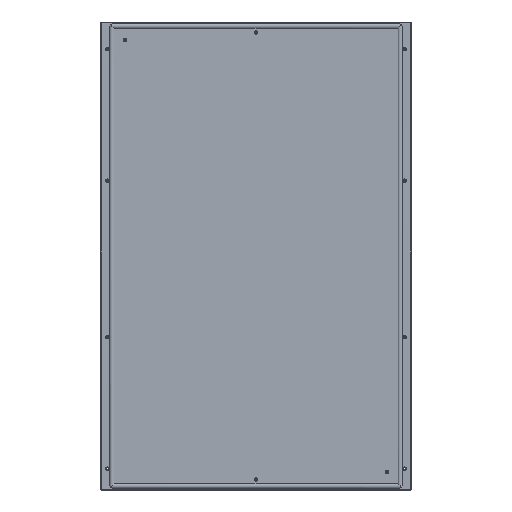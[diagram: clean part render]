
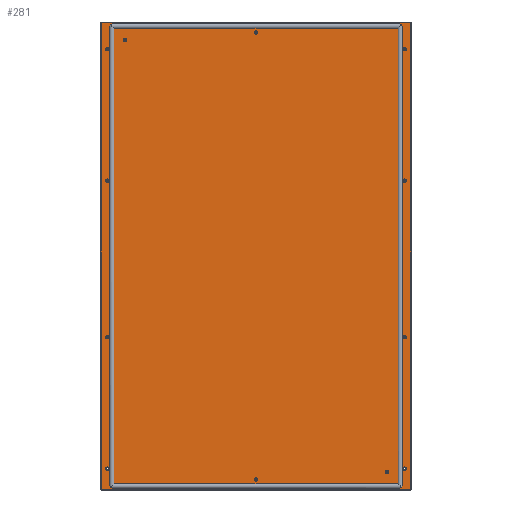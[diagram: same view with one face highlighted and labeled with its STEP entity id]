
A CAD part, top view. The second image highlights one B-rep face of the part: STEP entity #281.
In plain terms, the highlighted planar face has unit normal (0, 0, 1).
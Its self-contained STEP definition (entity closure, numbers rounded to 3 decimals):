
#281=ADVANCED_FACE('',(#1460,#1462,#1464,#1466,#1468,#1470,#1472,#1474,#1476,#1478,
#1480,#1482,#1484),#1486,.T.);
#1460=FACE_BOUND('',#1461,.T.);
#1461=EDGE_LOOP('',(#2761,#2762,#2763,#2764));
#1462=FACE_BOUND('',#1463,.T.);
#1463=EDGE_LOOP('',(#2765));
#1464=FACE_BOUND('',#1465,.T.);
#1465=EDGE_LOOP('',(#2766));
#1466=FACE_BOUND('',#1467,.T.);
#1467=EDGE_LOOP('',(#2767));
#1468=FACE_BOUND('',#1469,.T.);
#1469=EDGE_LOOP('',(#2768));
#1470=FACE_BOUND('',#1471,.T.);
#1471=EDGE_LOOP('',(#2769));
#1472=FACE_BOUND('',#1473,.T.);
#1473=EDGE_LOOP('',(#2770));
#1474=FACE_BOUND('',#1475,.T.);
#1475=EDGE_LOOP('',(#2771));
#1476=FACE_BOUND('',#1477,.T.);
#1477=EDGE_LOOP('',(#2772));
#1478=FACE_BOUND('',#1479,.T.);
#1479=EDGE_LOOP('',(#2773));
#1480=FACE_BOUND('',#1481,.T.);
#1481=EDGE_LOOP('',(#2774));
#1482=FACE_BOUND('',#1483,.T.);
#1483=EDGE_LOOP('',(#2775));
#1484=FACE_BOUND('',#1485,.T.);
#1485=EDGE_LOOP('',(#2776));
#1486=PLANE('',#1487);
#1487=AXIS2_PLACEMENT_3D('',#1488,#1489,#1490);
#1488=CARTESIAN_POINT('',(0.,0.,1.4));
#1489=DIRECTION('',(0.,0.,1.));
#1490=DIRECTION('',(1.,0.,0.));
#2761=ORIENTED_EDGE('',*,*,#3305,.F.);
#2762=ORIENTED_EDGE('',*,*,#3306,.F.);
#2763=ORIENTED_EDGE('',*,*,#3307,.F.);
#2764=ORIENTED_EDGE('',*,*,#3308,.F.);
#2765=ORIENTED_EDGE('',*,*,#3265,.F.);
#2766=ORIENTED_EDGE('',*,*,#3277,.F.);
#2767=ORIENTED_EDGE('',*,*,#3281,.F.);
#2768=ORIENTED_EDGE('',*,*,#3269,.F.);
#2769=ORIENTED_EDGE('',*,*,#3271,.F.);
#2770=ORIENTED_EDGE('',*,*,#3267,.F.);
#2771=ORIENTED_EDGE('',*,*,#3279,.F.);
#2772=ORIENTED_EDGE('',*,*,#3261,.F.);
#2773=ORIENTED_EDGE('',*,*,#3263,.F.);
#2774=ORIENTED_EDGE('',*,*,#3273,.F.);
#2775=ORIENTED_EDGE('',*,*,#3283,.F.);
#2776=ORIENTED_EDGE('',*,*,#3275,.F.);
#3261=EDGE_CURVE('',#3533,#3533,#3534,.T.);
#3263=EDGE_CURVE('',#3537,#3537,#3538,.T.);
#3265=EDGE_CURVE('',#3541,#3541,#3542,.T.);
#3267=EDGE_CURVE('',#3545,#3545,#3546,.T.);
#3269=EDGE_CURVE('',#3549,#3549,#3550,.T.);
#3271=EDGE_CURVE('',#3553,#3553,#3554,.T.);
#3273=EDGE_CURVE('',#3557,#3557,#3558,.T.);
#3275=EDGE_CURVE('',#3561,#3561,#3562,.T.);
#3277=EDGE_CURVE('',#3565,#3565,#3566,.T.);
#3279=EDGE_CURVE('',#3569,#3569,#3570,.T.);
#3281=EDGE_CURVE('',#3573,#3573,#3574,.T.);
#3283=EDGE_CURVE('',#3577,#3577,#3578,.T.);
#3305=EDGE_CURVE('',#3621,#3622,#3623,.T.);
#3306=EDGE_CURVE('',#3624,#3621,#3625,.T.);
#3307=EDGE_CURVE('',#3626,#3624,#3627,.T.);
#3308=EDGE_CURVE('',#3622,#3626,#3628,.T.);
#3533=VERTEX_POINT('',#3985);
#3534=CIRCLE('',#3986,0.5);
#3537=VERTEX_POINT('',#3995);
#3538=CIRCLE('',#3996,0.5);
#3541=VERTEX_POINT('',#4005);
#3542=CIRCLE('',#4006,6.75);
#3545=VERTEX_POINT('',#4015);
#3546=CIRCLE('',#4016,6.75);
#3549=VERTEX_POINT('',#4025);
#3550=CIRCLE('',#4026,6.75);
#3553=VERTEX_POINT('',#4035);
#3554=CIRCLE('',#4036,6.75);
#3557=VERTEX_POINT('',#4045);
#3558=CIRCLE('',#4046,6.75);
#3561=VERTEX_POINT('',#4055);
#3562=CIRCLE('',#4056,6.75);
#3565=VERTEX_POINT('',#4065);
#3566=CIRCLE('',#4066,6.75);
#3569=VERTEX_POINT('',#4075);
#3570=CIRCLE('',#4076,6.75);
#3573=VERTEX_POINT('',#4085);
#3574=CIRCLE('',#4086,6.75);
#3577=VERTEX_POINT('',#4095);
#3578=CIRCLE('',#4096,6.75);
#3621=VERTEX_POINT('',#4205);
#3622=VERTEX_POINT('',#4206);
#3623=LINE('',#4207,#4208);
#3624=VERTEX_POINT('',#4210);
#3625=LINE('',#4211,#4212);
#3626=VERTEX_POINT('',#4214);
#3627=LINE('',#4215,#4216);
#3628=LINE('',#4218,#4219);
#3985=CARTESIAN_POINT('',(-499.5,825.,1.4));
#3986=AXIS2_PLACEMENT_3D('',#3987,#3988,#3989);
#3987=CARTESIAN_POINT('',(-500.,825.,1.4));
#3988=DIRECTION('',(0.,0.,1.));
#3989=DIRECTION('',(-1.,0.,0.));
#3995=CARTESIAN_POINT('',(500.5,-825.,1.4));
#3996=AXIS2_PLACEMENT_3D('',#3997,#3998,#3999);
#3997=CARTESIAN_POINT('',(500.,-825.,1.4));
#3998=DIRECTION('',(0.,0.,1.));
#3999=DIRECTION('',(-1.,0.,0.));
#4005=CARTESIAN_POINT('',(573.75,789.25,1.4));
#4006=AXIS2_PLACEMENT_3D('',#4007,#4008,#4009);
#4007=CARTESIAN_POINT('',(567.,789.25,1.4));
#4008=DIRECTION('',(0.,0.,1.));
#4009=DIRECTION('',(-1.,0.,0.));
#4015=CARTESIAN_POINT('',(-560.25,-309.75,1.4));
#4016=AXIS2_PLACEMENT_3D('',#4017,#4018,#4019);
#4017=CARTESIAN_POINT('',(-567.,-309.75,1.4));
#4018=DIRECTION('',(0.,0.,1.));
#4019=DIRECTION('',(-1.,0.,0.));
#4025=CARTESIAN_POINT('',(573.75,-811.75,1.4));
#4026=AXIS2_PLACEMENT_3D('',#4027,#4028,#4029);
#4027=CARTESIAN_POINT('',(567.,-811.75,1.4));
#4028=DIRECTION('',(0.,0.,1.));
#4029=DIRECTION('',(-1.,0.,0.));
#4035=CARTESIAN_POINT('',(-560.25,-811.75,1.4));
#4036=AXIS2_PLACEMENT_3D('',#4037,#4038,#4039);
#4037=CARTESIAN_POINT('',(-567.,-811.75,1.4));
#4038=DIRECTION('',(0.,0.,1.));
#4039=DIRECTION('',(-1.,0.,0.));
#4045=CARTESIAN_POINT('',(6.75,853.,1.4));
#4046=AXIS2_PLACEMENT_3D('',#4047,#4048,#4049);
#4047=CARTESIAN_POINT('',(0.,853.,1.4));
#4048=DIRECTION('',(0.,0.,1.));
#4049=DIRECTION('',(-1.,0.,0.));
#4055=CARTESIAN_POINT('',(-560.25,789.25,1.4));
#4056=AXIS2_PLACEMENT_3D('',#4057,#4058,#4059);
#4057=CARTESIAN_POINT('',(-567.,789.25,1.4));
#4058=DIRECTION('',(0.,0.,1.));
#4059=DIRECTION('',(-1.,0.,0.));
#4065=CARTESIAN_POINT('',(573.75,287.25,1.4));
#4066=AXIS2_PLACEMENT_3D('',#4067,#4068,#4069);
#4067=CARTESIAN_POINT('',(567.,287.25,1.4));
#4068=DIRECTION('',(0.,0.,1.));
#4069=DIRECTION('',(-1.,0.,0.));
#4075=CARTESIAN_POINT('',(-560.25,287.25,1.4));
#4076=AXIS2_PLACEMENT_3D('',#4077,#4078,#4079);
#4077=CARTESIAN_POINT('',(-567.,287.25,1.4));
#4078=DIRECTION('',(0.,0.,1.));
#4079=DIRECTION('',(-1.,0.,0.));
#4085=CARTESIAN_POINT('',(573.75,-309.75,1.4));
#4086=AXIS2_PLACEMENT_3D('',#4087,#4088,#4089);
#4087=CARTESIAN_POINT('',(567.,-309.75,1.4));
#4088=DIRECTION('',(0.,0.,1.));
#4089=DIRECTION('',(-1.,0.,0.));
#4095=CARTESIAN_POINT('',(6.75,-853.,1.4));
#4096=AXIS2_PLACEMENT_3D('',#4097,#4098,#4099);
#4097=CARTESIAN_POINT('',(0.,-853.,1.4));
#4098=DIRECTION('',(0.,0.,1.));
#4099=DIRECTION('',(-1.,0.,0.));
#4205=CARTESIAN_POINT('',(589.8,889.8,1.4));
#4206=CARTESIAN_POINT('',(589.8,-889.8,1.4));
#4207=CARTESIAN_POINT('',(589.8,889.8,1.4));
#4208=VECTOR('',#4209,1.);
#4209=DIRECTION('',(0.,-1.,0.));
#4210=CARTESIAN_POINT('',(-589.8,889.8,1.4));
#4211=CARTESIAN_POINT('',(-589.8,889.8,1.4));
#4212=VECTOR('',#4213,1.);
#4213=DIRECTION('',(1.,0.,0.));
#4214=CARTESIAN_POINT('',(-589.8,-889.8,1.4));
#4215=CARTESIAN_POINT('',(-589.8,-889.8,1.4));
#4216=VECTOR('',#4217,1.);
#4217=DIRECTION('',(0.,1.,0.));
#4218=CARTESIAN_POINT('',(589.8,-889.8,1.4));
#4219=VECTOR('',#4220,1.);
#4220=DIRECTION('',(-1.,0.,0.));
